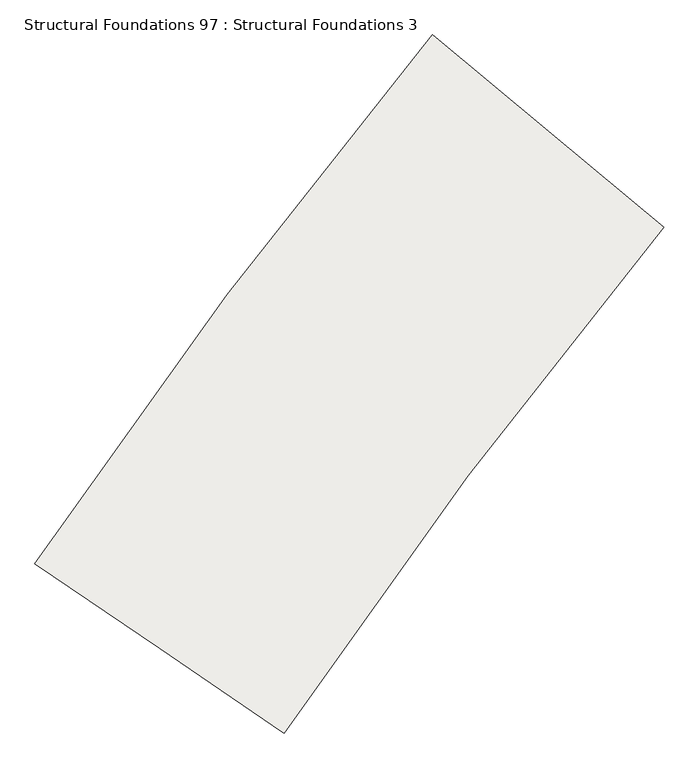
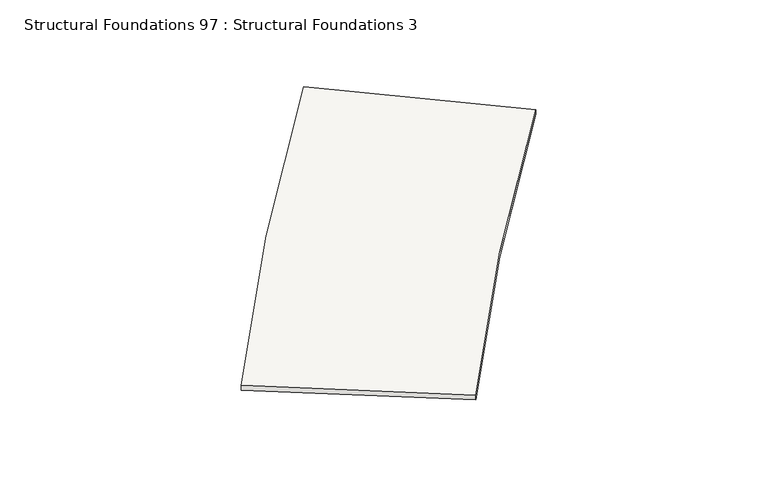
"""IFC4 building model written with IfcOpenShell, lengths in millimetres: slab geometry, Structural Foundations 97 : Structural Foundations 3."""

from ifc_helpers import new_model, si_unit, frame, origin, place, context, project, spatial, source, transform, mapped, element, save
from ifc_brep_helpers import plane_surface, spline_curve, spline_surface, advanced_brep


def structural_foundations_97_structural_foundations_3_158441ba(model_context):
    return source(origin(), model_context, "Body", "AdvancedBrep", [
        advanced_brep(
        [(-339111.3422174, -484006.5691262, 633550.0), (-336034.4182464, -486562.4523154, 633550.0), (-336034.4182464, -486562.4523154, 633450.0), (-339111.3422174, -484006.5691262, 633450.0), (-344391.0017538, -491026.7450351, 633460.0), (-344391.0017538, -491026.7450351, 633360.0), (-341081.7495305, -493273.7095925, 633360.0), (-341081.7495305, -493273.7095925, 633460.0)],
        [
            (0, 1),
            (1, 2),
            (2, 3),
            (3, 0),
            (4, 5),
            (5, 6),
            (6, 7),
            (7, 4),
            (7, 1, spline_curve(3, [(-341081.7495305, -493273.7095925, 633460.0), (-340295.2480228, -492115.377186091, 633474.999999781), (-339480.74690256, -490976.056444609, 633490.000000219), (-337797.64792184, -488738.099463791, 633519.999999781), (-336929.050061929, -487639.463225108, 633535.000000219), (-336034.4182464, -486562.4523154, 633550.0)], [4, 2, 4], [0.0, 14.097165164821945, 28.194330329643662])),
            (0, 4, spline_curve(3, [(-339111.3422174, -484006.5691262, 633550.0), (-340047.153863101, -485133.154761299, 633535.000000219), (-340955.733212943, -486282.361137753, 633519.999999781), (-342716.305103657, -488623.331097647, 633490.000000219), (-343568.297645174, -489815.094681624, 633474.999999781), (-344391.0017538, -491026.7450351, 633460.0)], [4, 2, 4], [0.0, 14.097165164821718, 28.194330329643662])),
            (6, 2, spline_curve(3, [(-341081.7495305, -493273.7095925, 633360.0), (-340295.248022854, -492115.377186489, 633375.000000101), (-339480.746902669, -490976.056444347, 633389.999999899), (-337797.647921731, -488738.099464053, 633420.000000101), (-336929.050062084, -487639.463225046, 633434.999999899), (-336034.4182464, -486562.4523154, 633450.0)], [4, 2, 4], [0.0, 13.780053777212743, 27.560107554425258])),
            (5, 3, spline_curve(3, [(-344391.0017538, -491026.7450351, 633360.0), (-343568.297645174, -489815.094681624, 633374.999999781), (-342716.305103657, -488623.331097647, 633390.000000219), (-340955.733212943, -486282.361137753, 633419.999999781), (-340047.153863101, -485133.154761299, 633435.000000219), (-339111.3422174, -484006.5691262, 633450.0)], [4, 2, 4], [0.0, 14.097165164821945, 28.19433032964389])),
        ],
        [
            plane_surface(frame((-337572.8802319, -485284.5107208, 633500.0), z_axis=(0.6389707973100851, 0.7692309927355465, 0.0), x_axis=(0.0, 0.0, -1.0))),
            plane_surface(frame((-342736.3756422, -492150.2273138, 633410.0), z_axis=(-0.5617411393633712, -0.8273130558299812, 0.0), x_axis=(0.8273130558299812, -0.5617411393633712, 0.0))),
            spline_surface(3, 3, [[(-344391.0017538, -491026.7450351, 633460.0), (-343568.297645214, -489815.094681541, 633475.0), (-342716.305103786, -488623.331097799, 633490.0), (-340955.733212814, -486282.361137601, 633520.0), (-340047.153863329, -485133.154761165, 633535.0), (-339111.3422174, -484006.5691262, 633550.0)], [(-343839.45971658, -491401.239128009, 633460.0), (-343022.789374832, -490198.475099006, 633475.0), (-342177.04540327, -489015.451988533, 633490.0), (-340429.385664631, -486691.650859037, 633520.0), (-339527.46989644, -485550.872838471, 633535.0), (-338598.521555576, -484432.54965774, 633550.0)], [(-343287.91767942, -491775.733220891, 633460.0), (-342477.28110451, -490581.855516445, 633475.0), (-341637.785703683, -489407.572880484, 633490.0), (-339903.038115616, -487100.940579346, 633520.0), (-339007.785929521, -485968.590915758, 633535.0), (-338085.700893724, -484858.53018926, 633550.0)], [(-342184.83360498, -492524.721406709, 633460.0), (-341386.264563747, -491348.616351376, 633475.0), (-340559.266302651, -490191.814661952, 633490.0), (-338850.343019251, -487919.520022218, 633520.0), (-337968.417995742, -486804.027070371, 633535.0), (-337060.059570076, -485710.49125234, 633550.0)], [(-341633.29156772, -492899.215499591, 633460.0), (-340840.756293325, -491731.996768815, 633475.0), (-340020.006602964, -490583.935553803, 633490.0), (-338323.995470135, -488328.809742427, 633520.0), (-337448.734028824, -487221.745147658, 633535.0), (-336547.238908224, -486136.47178386, 633550.0)], [(-341081.7495305, -493273.7095925, 633460.0), (-340295.248022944, -492115.37718628, 633475.0), (-339480.746902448, -490976.056444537, 633490.0), (-337797.647921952, -488738.099463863, 633520.0), (-336929.050061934, -487639.463224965, 633535.0), (-336034.4182464, -486562.4523154, 633550.0)]], [4, 2, 4], [4, 2, 4], [0.0, 6.561679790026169, 13.123359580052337], [0.0, 14.097165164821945, 28.194330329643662]),
            spline_surface(3, 3, [[(-341081.7495305, -493273.7095925, 633460.0), (-340295.248022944, -492115.37718628, 633475.0), (-339480.746902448, -490976.056444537, 633490.0), (-337797.647921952, -488738.099463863, 633520.0), (-336929.050061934, -487639.463224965, 633535.0), (-336034.4182464, -486562.4523154, 633550.0)], [(-341081.7495305, -493273.7095925, 633443.333333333), (-340295.248022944, -492115.37718628, 633458.333333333), (-339480.746902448, -490976.056444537, 633473.333333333), (-337797.647921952, -488738.099463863, 633503.333333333), (-336929.050061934, -487639.463224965, 633518.333333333), (-336034.4182464, -486562.4523154, 633533.333333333)], [(-341081.7495305, -493273.7095925, 633426.666666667), (-340295.248022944, -492115.37718628, 633441.666666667), (-339480.746902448, -490976.056444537, 633456.666666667), (-337797.647921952, -488738.099463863, 633486.666666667), (-336929.050061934, -487639.463224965, 633501.666666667), (-336034.4182464, -486562.4523154, 633516.666666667)], [(-341081.7495305, -493273.7095925, 633393.333333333), (-340295.248022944, -492115.37718628, 633408.333333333), (-339480.746902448, -490976.056444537, 633423.333333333), (-337797.647921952, -488738.099463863, 633453.333333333), (-336929.050061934, -487639.463224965, 633468.333333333), (-336034.4182464, -486562.4523154, 633483.333333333)], [(-341081.7495305, -493273.7095925, 633376.666666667), (-340295.248022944, -492115.37718628, 633391.666666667), (-339480.746902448, -490976.056444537, 633406.666666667), (-337797.647921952, -488738.099463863, 633436.666666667), (-336929.050061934, -487639.463224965, 633451.666666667), (-336034.4182464, -486562.4523154, 633466.666666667)], [(-341081.7495305, -493273.7095925, 633360.0), (-340295.248022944, -492115.37718628, 633375.0), (-339480.746902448, -490976.056444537, 633390.0), (-337797.647921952, -488738.099463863, 633420.0), (-336929.050061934, -487639.463224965, 633435.0), (-336034.4182464, -486562.4523154, 633450.0)]], [4, 2, 4], [4, 2, 4], [0.0, 0.16404199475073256, 0.3280839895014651], [0.0, 13.780053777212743, 27.560107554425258]),
            spline_surface(3, 3, [[(-341081.7495305, -493273.7095925, 633360.0), (-340295.248022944, -492115.37718628, 633375.0), (-339480.746902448, -490976.056444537, 633390.0), (-337797.647921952, -488738.099463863, 633420.0), (-336929.050061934, -487639.463224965, 633435.0), (-336034.4182464, -486562.4523154, 633450.0)], [(-341633.29156772, -492899.215499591, 633360.0), (-340840.756293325, -491731.996768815, 633375.0), (-340020.006602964, -490583.935553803, 633390.0), (-338323.995470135, -488328.809742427, 633420.0), (-337448.734028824, -487221.745147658, 633435.0), (-336547.238908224, -486136.47178386, 633450.0)], [(-342184.83360498, -492524.721406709, 633360.0), (-341386.264563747, -491348.616351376, 633375.0), (-340559.266302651, -490191.814661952, 633390.0), (-338850.343019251, -487919.520022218, 633420.0), (-337968.417995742, -486804.027070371, 633435.0), (-337060.059570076, -485710.49125234, 633450.0)], [(-343287.91767942, -491775.733220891, 633360.0), (-342477.28110451, -490581.855516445, 633375.0), (-341637.785703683, -489407.572880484, 633390.0), (-339903.038115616, -487100.940579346, 633420.0), (-339007.785929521, -485968.590915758, 633435.0), (-338085.700893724, -484858.53018926, 633450.0)], [(-343839.45971658, -491401.239128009, 633360.0), (-343022.789374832, -490198.475099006, 633375.0), (-342177.04540327, -489015.451988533, 633390.0), (-340429.385664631, -486691.650859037, 633420.0), (-339527.46989644, -485550.872838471, 633435.0), (-338598.521555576, -484432.54965774, 633450.0)], [(-344391.0017538, -491026.7450351, 633360.0), (-343568.297645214, -489815.094681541, 633375.0), (-342716.305103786, -488623.331097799, 633390.0), (-340955.733212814, -486282.361137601, 633420.0), (-340047.153863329, -485133.154761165, 633435.0), (-339111.3422174, -484006.5691262, 633450.0)]], [4, 2, 4], [4, 2, 4], [0.0, 6.561679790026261, 13.123359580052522], [0.0, 14.097165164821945, 28.19433032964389]),
            spline_surface(3, 3, [[(-344391.0017538, -491026.7450351, 633360.0), (-343568.297645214, -489815.094681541, 633375.0), (-342716.305103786, -488623.331097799, 633390.0), (-340955.733212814, -486282.361137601, 633420.0), (-340047.153863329, -485133.154761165, 633435.0), (-339111.3422174, -484006.5691262, 633450.0)], [(-344391.0017538, -491026.7450351, 633376.666666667), (-343568.297645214, -489815.094681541, 633391.666666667), (-342716.305103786, -488623.331097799, 633406.666666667), (-340955.733212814, -486282.361137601, 633436.666666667), (-340047.153863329, -485133.154761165, 633451.666666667), (-339111.3422174, -484006.5691262, 633466.666666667)], [(-344391.0017538, -491026.7450351, 633393.333333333), (-343568.297645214, -489815.094681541, 633408.333333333), (-342716.305103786, -488623.331097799, 633423.333333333), (-340955.733212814, -486282.361137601, 633453.333333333), (-340047.153863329, -485133.154761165, 633468.333333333), (-339111.3422174, -484006.5691262, 633483.333333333)], [(-344391.0017538, -491026.7450351, 633426.666666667), (-343568.297645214, -489815.094681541, 633441.666666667), (-342716.305103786, -488623.331097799, 633456.666666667), (-340955.733212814, -486282.361137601, 633486.666666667), (-340047.153863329, -485133.154761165, 633501.666666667), (-339111.3422174, -484006.5691262, 633516.666666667)], [(-344391.0017538, -491026.7450351, 633443.333333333), (-343568.297645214, -489815.094681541, 633458.333333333), (-342716.305103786, -488623.331097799, 633473.333333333), (-340955.733212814, -486282.361137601, 633503.333333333), (-340047.153863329, -485133.154761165, 633518.333333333), (-339111.3422174, -484006.5691262, 633533.333333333)], [(-344391.0017538, -491026.7450351, 633460.0), (-343568.297645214, -489815.094681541, 633475.0), (-342716.305103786, -488623.331097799, 633490.0), (-340955.733212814, -486282.361137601, 633520.0), (-340047.153863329, -485133.154761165, 633535.0), (-339111.3422174, -484006.5691262, 633550.0)]], [4, 2, 4], [4, 2, 4], [0.0, 0.16404199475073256, 0.3280839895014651], [0.0, 14.41427733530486, 28.828554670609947]),
        ],
        [
            (0, [[1, 2, 3, 4]]),
            (1, [[5, 6, 7, 8]]),
            (2, [[-8, 9, -1, 10]]),
            (3, [[-7, 11, -2, -9]]),
            (4, [[-6, 12, -3, -11]]),
            (5, [[-5, -10, -4, -12]]),
        ],
    ),
    ])


if __name__ == "__main__":
    model = new_model("IFC4")
    model_context = context("Model", 3, world=origin())
    ifc_project = project(units=[si_unit("LENGTHUNIT", "METRE", prefix="MILLI")], contexts=[model_context])
    site = spatial("IfcSite", under=ifc_project)
    building = spatial("IfcBuilding", under=site)
    placement = place(None, origin())
    structural_foundations_97_structural_foundations_3_shape = structural_foundations_97_structural_foundations_3_158441ba(model_context)
    element("IfcSlab", 1, ObjectType="Structural Foundations 97 : Structural Foundations 3", at=placement, inside=building, context=model_context, shape_type="MappedRepresentation", body=[
        mapped(structural_foundations_97_structural_foundations_3_shape, transform((0.0, 0.0, 0.0), x_axis=(1.0, 0.0, 0.0), y_axis=(0.0, 1.0, 0.0), z_axis=(0.0, 0.0, 1.0))),
    ])
    save(model, "model.ifc")
